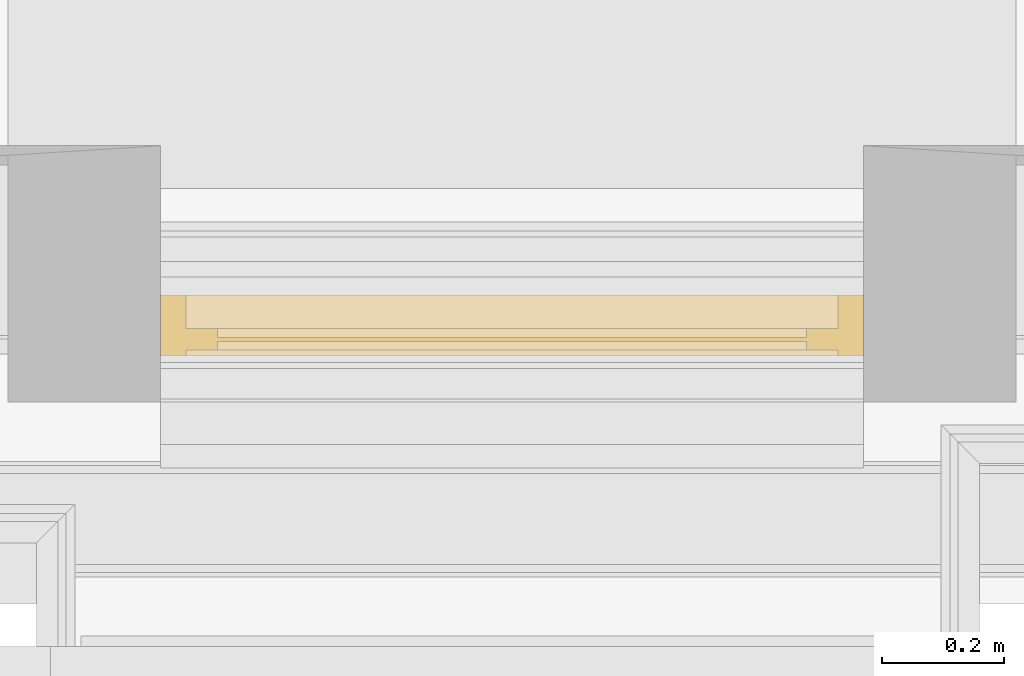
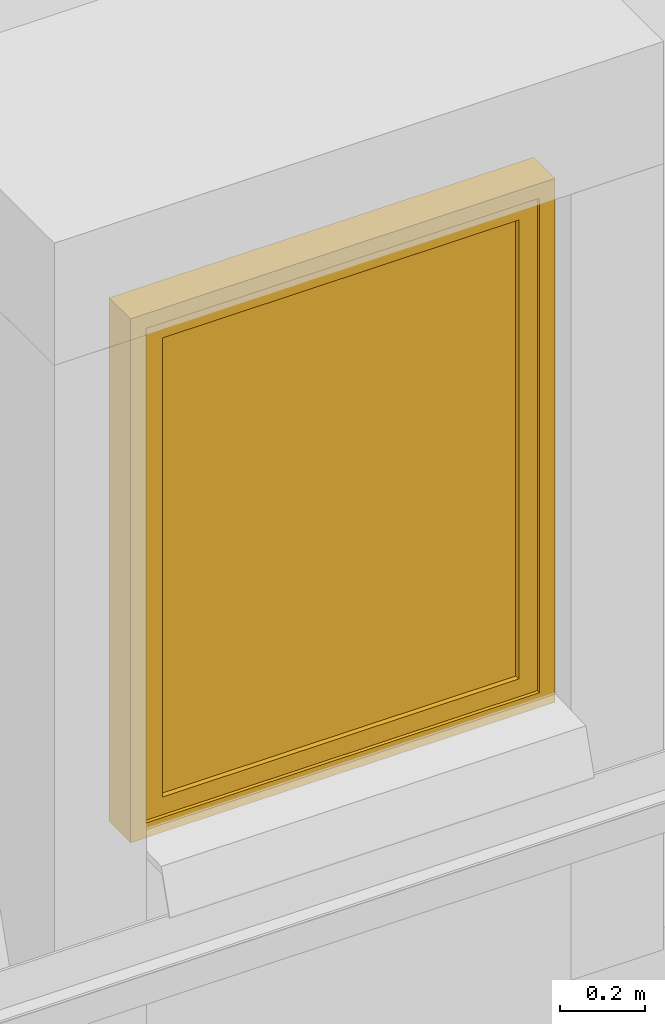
# One storey, part 121 of 169: 1 window.
"""IFC2X3 building model written with IfcOpenShell, lengths in metres."""

from ifc_helpers import new_model, entity, si_unit, converted_unit, derived_unit, money_unit, direction, frame, origin_with_axes, place, context, subcontext, project, spatial, faceted_brep, material, type_object, element, save


model = new_model("IFC2X3")

# Units and contexts
model_context = context("Model", 3, precision=1e-05, world=origin_with_axes(), true_north=direction((0.0, 1.0)))
body_context = subcontext(model_context, "Body", "Model", "MODEL_VIEW", scale=1.0)
ifc_project = project(units=[si_unit("LENGTHUNIT", "METRE"), si_unit("AREAUNIT", "SQUARE_METRE"), si_unit("VOLUMEUNIT", "CUBIC_METRE"), si_unit("ABSORBEDDOSEUNIT", "GRAY"), si_unit("AMOUNTOFSUBSTANCEUNIT", "MOLE"), si_unit("DOSEEQUIVALENTUNIT", "SIEVERT"), si_unit("ELECTRICCAPACITANCEUNIT", "FARAD"), si_unit("ELECTRICCHARGEUNIT", "COULOMB"), si_unit("ELECTRICCONDUCTANCEUNIT", "SIEMENS"), si_unit("ELECTRICCURRENTUNIT", "AMPERE"), si_unit("ELECTRICRESISTANCEUNIT", "OHM"), si_unit("ELECTRICVOLTAGEUNIT", "VOLT"), si_unit("ENERGYUNIT", "JOULE"), si_unit("FORCEUNIT", "NEWTON"), si_unit("FREQUENCYUNIT", "HERTZ"), si_unit("ILLUMINANCEUNIT", "LUX"), si_unit("INDUCTANCEUNIT", "HENRY"), si_unit("LUMINOUSFLUXUNIT", "LUMEN"), si_unit("LUMINOUSINTENSITYUNIT", "CANDELA"), si_unit("MAGNETICFLUXDENSITYUNIT", "TESLA"), si_unit("MAGNETICFLUXUNIT", "WEBER"), si_unit("MASSUNIT", "GRAM"), converted_unit("PLANEANGLEUNIT", "degree", entity("IfcReal", 0.0174532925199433), si_unit("PLANEANGLEUNIT", "RADIAN"), dimensions=[0, 0, 0, 0, 0, 0, 0]), si_unit("POWERUNIT", "WATT"), si_unit("PRESSUREUNIT", "PASCAL"), si_unit("RADIOACTIVITYUNIT", "BECQUEREL"), si_unit("SOLIDANGLEUNIT", "STERADIAN"), si_unit("THERMODYNAMICTEMPERATUREUNIT", "KELVIN"), si_unit("TIMEUNIT", "SECOND"), derived_unit("ACCELERATIONUNIT", [(si_unit("LENGTHUNIT", "METRE"), 1), (si_unit("TIMEUNIT", "SECOND"), -2)]), derived_unit("ANGULARVELOCITYUNIT", [(converted_unit("PLANEANGLEUNIT", "degree", entity("IfcReal", 0.0174532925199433), si_unit("PLANEANGLEUNIT", "RADIAN"), dimensions=[0, 0, 0, 0, 0, 0, 0]), 1), (si_unit("TIMEUNIT", "SECOND"), -1)]), derived_unit("CURVATUREUNIT", [(converted_unit("PLANEANGLEUNIT", "degree", entity("IfcReal", 0.0174532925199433), si_unit("PLANEANGLEUNIT", "RADIAN"), dimensions=[0, 0, 0, 0, 0, 0, 0]), 1), (si_unit("LENGTHUNIT", "METRE"), -1)]), derived_unit("DYNAMICVISCOSITYUNIT", [(si_unit("PRESSUREUNIT", "PASCAL"), 1), (si_unit("TIMEUNIT", "SECOND"), 1)]), derived_unit("HEATFLUXDENSITYUNIT", [(si_unit("POWERUNIT", "WATT"), 1), (si_unit("LENGTHUNIT", "METRE"), -2)]), derived_unit("HEATINGVALUEUNIT", [(si_unit("ENERGYUNIT", "JOULE"), 1), (si_unit("MASSUNIT", "GRAM"), -1)]), derived_unit("INTEGERCOUNTRATEUNIT", [(si_unit("TIMEUNIT", "SECOND"), -1)]), derived_unit("IONCONCENTRATIONUNIT", [(si_unit("MASSUNIT", "GRAM"), 1), (si_unit("VOLUMEUNIT", "CUBIC_METRE"), -1)]), derived_unit("ISOTHERMALMOISTURECAPACITYUNIT", [(si_unit("VOLUMEUNIT", "CUBIC_METRE"), 1), (si_unit("MASSUNIT", "GRAM"), -1)]), derived_unit("KINEMATICVISCOSITYUNIT", [(si_unit("AREAUNIT", "SQUARE_METRE"), 1), (si_unit("TIMEUNIT", "SECOND"), -1)]), derived_unit("LINEARFORCEUNIT", [(si_unit("FORCEUNIT", "NEWTON"), 1), (si_unit("LENGTHUNIT", "METRE"), -1)]), derived_unit("LINEARMOMENTUNIT", [(si_unit("FORCEUNIT", "NEWTON"), 1), (si_unit("LENGTHUNIT", "METRE"), -1)]), derived_unit("LINEARSTIFFNESSUNIT", [(si_unit("FORCEUNIT", "NEWTON"), 1), (si_unit("LENGTHUNIT", "METRE"), -1)]), derived_unit("LINEARVELOCITYUNIT", [(si_unit("LENGTHUNIT", "METRE"), 1), (si_unit("TIMEUNIT", "SECOND"), -1)]), derived_unit("LUMINOUSINTENSITYDISTRIBUTIONUNIT", [(si_unit("LUMINOUSINTENSITYUNIT", "CANDELA"), 1), (si_unit("LUMINOUSFLUXUNIT", "LUMEN"), -1)]), derived_unit("MASSDENSITYUNIT", [(si_unit("MASSUNIT", "GRAM"), 1), (si_unit("VOLUMEUNIT", "CUBIC_METRE"), -1)]), derived_unit("MASSFLOWRATEUNIT", [(si_unit("MASSUNIT", "GRAM"), 1), (si_unit("TIMEUNIT", "SECOND"), -1)]), derived_unit("MASSPERLENGTHUNIT", [(si_unit("MASSUNIT", "GRAM"), 1), (si_unit("LENGTHUNIT", "METRE"), -1)]), derived_unit("MODULUSOFELASTICITYUNIT", [(si_unit("FORCEUNIT", "NEWTON"), 1), (si_unit("AREAUNIT", "SQUARE_METRE"), -1)]), derived_unit("MODULUSOFLINEARSUBGRADEREACTIONUNIT", [(si_unit("FORCEUNIT", "NEWTON"), 1), (si_unit("LENGTHUNIT", "METRE"), -2)]), derived_unit("MODULUSOFROTATIONALSUBGRADEREACTIONUNIT", [(si_unit("FORCEUNIT", "NEWTON"), 1), (si_unit("LENGTHUNIT", "METRE"), 1)]), derived_unit("MODULUSOFSUBGRADEREACTIONUNIT", [(si_unit("FORCEUNIT", "NEWTON"), 1), (si_unit("VOLUMEUNIT", "CUBIC_METRE"), -1)]), derived_unit("MOISTUREDIFFUSIVITYUNIT", [(si_unit("VOLUMEUNIT", "CUBIC_METRE"), 1), (si_unit("TIMEUNIT", "SECOND"), -1)]), derived_unit("MOLECULARWEIGHTUNIT", [(si_unit("MASSUNIT", "GRAM"), 1), (si_unit("AMOUNTOFSUBSTANCEUNIT", "MOLE"), -1)]), derived_unit("PLANARFORCEUNIT", [(si_unit("FORCEUNIT", "NEWTON"), 1), (si_unit("LENGTHUNIT", "METRE"), -2)]), derived_unit("ROTATIONALFREQUENCYUNIT", [(si_unit("TIMEUNIT", "SECOND"), -1)]), derived_unit("ROTATIONALMASSUNIT", [(si_unit("MASSUNIT", "GRAM"), 1), (si_unit("LENGTHUNIT", "METRE"), 2)]), derived_unit("ROTATIONALSTIFFNESSUNIT", [(si_unit("FORCEUNIT", "NEWTON"), 1), (si_unit("LENGTHUNIT", "METRE"), 1), (converted_unit("PLANEANGLEUNIT", "degree", entity("IfcReal", 0.0174532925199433), si_unit("PLANEANGLEUNIT", "RADIAN"), dimensions=[0, 0, 0, 0, 0, 0, 0]), -1)]), derived_unit("SECTIONAREAINTEGRALUNIT", [(si_unit("LENGTHUNIT", "METRE"), 5)]), derived_unit("SECTIONMODULUSUNIT", [(si_unit("LENGTHUNIT", "METRE"), 3)]), derived_unit("SHEARMODULUSUNIT", [(si_unit("FORCEUNIT", "NEWTON"), 1), (si_unit("AREAUNIT", "SQUARE_METRE"), -1)]), derived_unit("SOUNDPOWERUNIT", [(si_unit("ENERGYUNIT", "JOULE"), 1), (si_unit("TIMEUNIT", "SECOND"), -1)]), derived_unit("SPECIFICHEATCAPACITYUNIT", [(si_unit("FORCEUNIT", "NEWTON"), 1), (si_unit("MASSUNIT", "GRAM"), -1), (si_unit("THERMODYNAMICTEMPERATUREUNIT", "KELVIN"), -1)]), derived_unit("TEMPERATUREGRADIENTUNIT", [(si_unit("THERMODYNAMICTEMPERATUREUNIT", "KELVIN"), 1), (si_unit("LENGTHUNIT", "METRE"), -1)]), derived_unit("THERMALADMITTANCEUNIT", [(si_unit("POWERUNIT", "WATT"), 1), (si_unit("AREAUNIT", "SQUARE_METRE"), -1), (si_unit("THERMODYNAMICTEMPERATUREUNIT", "KELVIN"), -1)]), derived_unit("THERMALCONDUCTANCEUNIT", [(si_unit("POWERUNIT", "WATT"), 1), (si_unit("LENGTHUNIT", "METRE"), -1), (si_unit("THERMODYNAMICTEMPERATUREUNIT", "KELVIN"), -1)]), derived_unit("THERMALEXPANSIONCOEFFICIENTUNIT", [(si_unit("THERMODYNAMICTEMPERATUREUNIT", "KELVIN"), -1)]), derived_unit("THERMALRESISTANCEUNIT", [(si_unit("AREAUNIT", "SQUARE_METRE"), 1), (si_unit("POWERUNIT", "WATT"), -1)]), derived_unit("THERMALTRANSMITTANCEUNIT", [(si_unit("POWERUNIT", "WATT"), 1), (si_unit("AREAUNIT", "SQUARE_METRE"), -1), (si_unit("THERMODYNAMICTEMPERATUREUNIT", "KELVIN"), -1)]), derived_unit("TORQUEUNIT", [(si_unit("FORCEUNIT", "NEWTON"), 1), (si_unit("LENGTHUNIT", "METRE"), 1)]), derived_unit("VAPORPERMEABILITYUNIT", [(si_unit("MASSUNIT", "GRAM"), 1), (si_unit("TIMEUNIT", "SECOND"), -1)]), derived_unit("VOLUMETRICFLOWRATEUNIT", [(si_unit("VOLUMEUNIT", "CUBIC_METRE"), 1), (si_unit("TIMEUNIT", "SECOND"), -1)]), derived_unit("WARPINGCONSTANTUNIT", [(si_unit("LENGTHUNIT", "METRE"), 6)]), derived_unit("WARPINGMOMENTUNIT", [(si_unit("FORCEUNIT", "NEWTON"), 1), (si_unit("LENGTHUNIT", "METRE"), 2)]), money_unit("GBP")], contexts=[model_context])

# Site, building, storey, space
site_placement = place(None, origin_with_axes())
site = spatial("IfcSite", under=ifc_project, at=site_placement, Name="Site", CompositionType="ELEMENT")
building_placement = place(site_placement, origin_with_axes())
building = spatial("IfcBuilding", under=site, at=building_placement, Name="Building01", CompositionType="ELEMENT")
storey_placement = place(building_placement, frame((0.0, 0.0, 5.15), z_axis=(0.0, 0.0, 1.0), x_axis=(1.0, 0.0, 0.0)))
storey = spatial("IfcBuildingStorey", under=building, at=storey_placement, Name="1F", CompositionType="ELEMENT", Elevation=5.15)
space_placement = place(storey_placement, frame((15.77, 4.717, 9.86), z_axis=(0.0, 0.0, 1.0), x_axis=(0.0, -1.0, 0.0)))
space = spatial("IfcSpace", under=storey, at=space_placement, Name="1", CompositionType="ELEMENT", InteriorOrExteriorSpace="NOTDEFINED")

# Window
ifc_material = material(Name="A_BSUK_Windows")
window_style = type_object("IfcWindowStyle", Name="A-Awning", ConstructionType="NOTDEFINED", OperationType="USERDEFINED", ParameterTakesPrecedence=False, Sizeable=False)
window_placement = place(storey_placement, frame((17.360024, 0.549939, 10.83), z_axis=(0.0, 0.0, 1.0), x_axis=(1.0, 0.0, 0.0)))
element("IfcWindow", 1, at=window_placement, inside=space, type_object=window_style, material=ifc_material, Name="4.07", ObjectType="A-Awning", OverallHeight=1.50000000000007, OverallWidth=1.15000000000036, context=body_context, shape_type="Brep", body=[
    faceted_brep([(-1.108, 0.0254, 0.042), (-0.042, 0.0254, 0.042), (-0.042, 0.1254, 0.042), (-1.108, 0.1254, 0.042), (-1.108, 0.0254, 1.458), (-1.108, 0.1254, 1.458), (-0.042, 0.0254, 1.458), (-0.042, 0.1254, 1.458), (0.0, 0.0254, 0.0), (0.0, 0.0254, 1.5), (-1.15, 0.0254, 1.5), (-1.15, 0.0254, 0.0), (0.0, 0.1254, 1.5), (-1.15, 0.1254, 1.5), (-1.15, 0.1254, 0.0), (0.0, 0.1254, 0.0)], [[[0, 1, 2, 3]], [[4, 0, 3, 5]], [[6, 4, 5, 7]], [[8, 9, 10, 11], [4, 6, 1, 0]], [[1, 6, 7, 2]], [[12, 13, 10, 9]], [[14, 15, 8, 11]], [[13, 14, 11, 10]], [[13, 12, 15, 14], [2, 7, 5, 3]], [[15, 12, 9, 8]]]),
    faceted_brep([(-1.0572, 0.0354, 0.0928), (-0.0928, 0.0354, 0.0928), (-0.0928, 0.0704, 0.0928), (-1.0572, 0.0704, 0.0928), (-1.0572, 0.0354, 1.4072), (-1.0572, 0.0704, 1.4072), (-0.0928, 0.0354, 1.4072), (-0.0928, 0.0704, 1.4072), (-1.108, 0.0704, 1.458), (-0.042, 0.0704, 1.458), (-0.042, 0.0704, 0.042), (-1.108, 0.0704, 0.042), (-1.108, 0.0354, 1.458), (-0.042, 0.0354, 1.458), (-0.042, 0.0354, 0.042), (-1.108, 0.0354, 0.042)], [[[0, 1, 2, 3]], [[4, 0, 3, 5]], [[6, 4, 5, 7]], [[8, 9, 10, 11], [2, 7, 5, 3]], [[9, 8, 12, 13]], [[10, 9, 13, 14]], [[11, 10, 14, 15]], [[8, 11, 15, 12]], [[14, 13, 12, 15], [4, 6, 1, 0]], [[1, 6, 7, 2]]]),
    faceted_brep([(-0.0928, 0.049725, 0.0928), (-0.0928, 0.056075, 0.0928), (-0.0928, 0.056075, 1.4072), (-0.0928, 0.049725, 1.4072), (-1.0572, 0.049725, 1.4072), (-1.0572, 0.056075, 1.4072), (-1.0572, 0.056075, 0.0928), (-1.0572, 0.049725, 0.0928)], [[[0, 1, 2, 3]], [[4, 5, 6, 7]], [[3, 2, 5, 4]], [[3, 4, 7, 0]], [[7, 6, 1, 0]], [[1, 6, 5, 2]]]),
])

save(model, "model.ifc")
